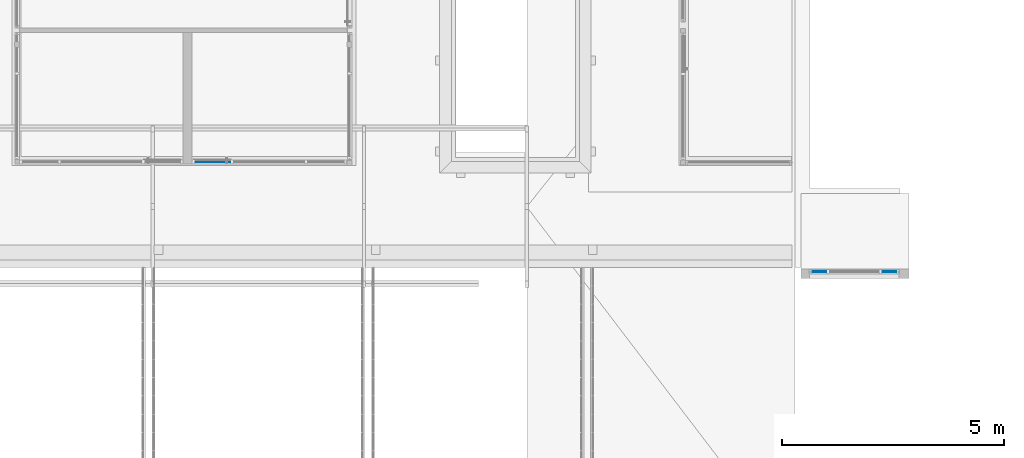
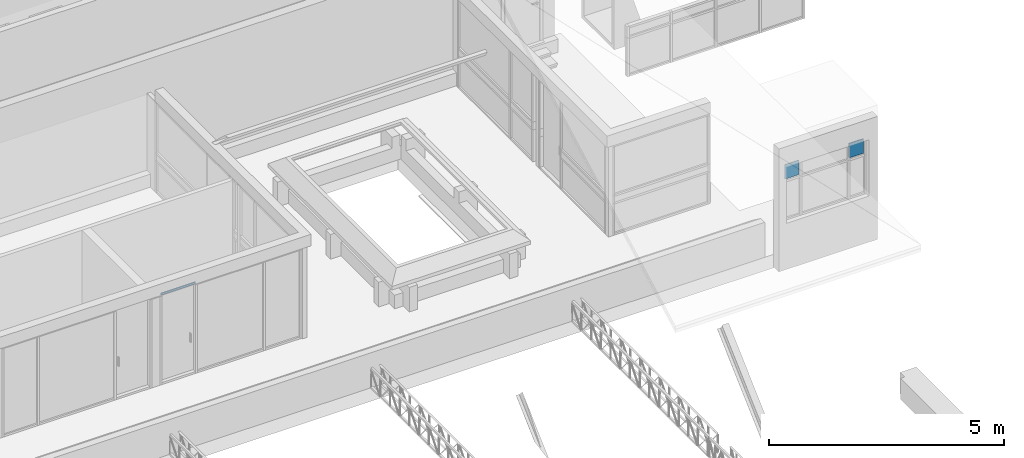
# One storey, part 109 of 153: 3 plates, 2 elements without a shape of their own.
"""IFC4 building model written with IfcOpenShell, lengths in metres."""

from ifc_helpers import new_model, entity, si_unit, converted_unit, derived_unit, direction, frame, origin, place, context, subcontext, project, spatial, indexed_curve, outline, extrude, source, transform, mapped, material, type_object, type_shapes, element, aggregate, save


model = new_model("IFC4")

# Units and contexts
model_context = context("Model", 3, precision=1e-05, world=origin(), true_north=direction((6.123031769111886e-17, 1.0)))
body_context = subcontext(model_context, "Body", "Model", "MODEL_VIEW")
ifc_project = project(units=[si_unit("LENGTHUNIT", "METRE"), si_unit("AREAUNIT", "SQUARE_METRE"), si_unit("VOLUMEUNIT", "CUBIC_METRE"), converted_unit("PLANEANGLEUNIT", "DEGREE", entity("IfcRatioMeasure", 0.017453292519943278), si_unit("PLANEANGLEUNIT", "RADIAN"), dimensions=[0, 0, 0, 0, 0, 0, 0]), si_unit("MASSUNIT", "GRAM", prefix="KILO"), derived_unit("MASSDENSITYUNIT", [(si_unit("MASSUNIT", "GRAM", prefix="KILO"), 1), (si_unit("LENGTHUNIT", "METRE"), -3)]), derived_unit("MOMENTOFINERTIAUNIT", [(si_unit("LENGTHUNIT", "METRE"), 4)]), si_unit("TIMEUNIT", "SECOND"), si_unit("FREQUENCYUNIT", "HERTZ"), si_unit("THERMODYNAMICTEMPERATUREUNIT", "DEGREE_CELSIUS"), derived_unit("THERMALTRANSMITTANCEUNIT", [(si_unit("MASSUNIT", "GRAM", prefix="KILO"), 1), (si_unit("THERMODYNAMICTEMPERATUREUNIT", "KELVIN"), -1), (si_unit("TIMEUNIT", "SECOND"), -3)]), derived_unit("VOLUMETRICFLOWRATEUNIT", [(si_unit("LENGTHUNIT", "METRE"), 3), (si_unit("TIMEUNIT", "SECOND"), -1)]), derived_unit("MASSFLOWRATEUNIT", [(si_unit("MASSUNIT", "GRAM", prefix="KILO"), 1), (si_unit("TIMEUNIT", "SECOND"), -1)]), derived_unit("ROTATIONALFREQUENCYUNIT", [(si_unit("TIMEUNIT", "SECOND"), -1)]), si_unit("ELECTRICCURRENTUNIT", "AMPERE"), si_unit("ELECTRICVOLTAGEUNIT", "VOLT"), si_unit("POWERUNIT", "WATT"), si_unit("FORCEUNIT", "NEWTON", prefix="KILO"), si_unit("ILLUMINANCEUNIT", "LUX"), si_unit("LUMINOUSFLUXUNIT", "LUMEN"), si_unit("LUMINOUSINTENSITYUNIT", "CANDELA"), derived_unit("USERDEFINED", [(si_unit("MASSUNIT", "GRAM", prefix="KILO"), -1), (si_unit("LENGTHUNIT", "METRE"), -2), (si_unit("TIMEUNIT", "SECOND"), 3), (si_unit("LUMINOUSFLUXUNIT", "LUMEN"), 1)]), derived_unit("SOUNDPOWERUNIT", [(si_unit("MASSUNIT", "GRAM", prefix="KILO"), 1), (si_unit("LENGTHUNIT", "METRE"), 2), (si_unit("TIMEUNIT", "SECOND"), -3)]), derived_unit("SOUNDPRESSUREUNIT", [(si_unit("MASSUNIT", "GRAM", prefix="KILO"), 1), (si_unit("LENGTHUNIT", "METRE"), -1), (si_unit("TIMEUNIT", "SECOND"), -2)]), derived_unit("LINEARVELOCITYUNIT", [(si_unit("LENGTHUNIT", "METRE"), 1), (si_unit("TIMEUNIT", "SECOND"), -1)]), si_unit("PRESSUREUNIT", "PASCAL"), derived_unit("USERDEFINED", [(si_unit("LENGTHUNIT", "METRE"), -2), (si_unit("MASSUNIT", "GRAM", prefix="KILO"), 1), (si_unit("TIMEUNIT", "SECOND"), -2)]), derived_unit("LINEARFORCEUNIT", [(si_unit("MASSUNIT", "GRAM", prefix="KILO"), 1), (si_unit("LENGTHUNIT", "METRE"), 1), (si_unit("TIMEUNIT", "SECOND"), -2), (si_unit("LENGTHUNIT", "METRE"), -1)]), derived_unit("PLANARFORCEUNIT", [(si_unit("MASSUNIT", "GRAM", prefix="KILO"), 1), (si_unit("LENGTHUNIT", "METRE"), 1), (si_unit("TIMEUNIT", "SECOND"), -2), (si_unit("LENGTHUNIT", "METRE"), -2)])], contexts=[model_context])

# Site, building, storey
site_placement = place(None, origin())
site = spatial("IfcSite", under=ifc_project, at=site_placement, Name="Superficie", CompositionType="ELEMENT")
building_placement = place(site_placement, origin())
building = spatial("IfcBuilding", under=site, at=building_placement, CompositionType="ELEMENT")
storey_placement = place(building_placement, frame((0.0, 0.0, 3.5999999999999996)))
storey = spatial("IfcBuildingStorey", under=building, at=storey_placement, Name="Nivel 1", CompositionType="ELEMENT", Elevation=3.5999999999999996)

# Curtain wall, plates
curtain_wall_type = type_object("IfcCurtainWallType", Name="Muro cortina:Muro cortina - simple", PredefinedType="NOTDEFINED")
curtain_wall_1_placement = place(storey_placement, frame((0.0, 0.0, -3.5999999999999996)))
curtain_wall_1 = element("IfcCurtainWall", 1, at=curtain_wall_1_placement, inside=storey, type_object=curtain_wall_type, Name="Muro cortina:Muro cortina - simple", ObjectType="Muro cortina:Muro cortina - simple", PredefinedType="NOTDEFINED")
ifc_material = material(Name="Cristal", Category="Vidrio")
plate_type_1 = type_object("IfcPlateType", Name="Panel de sistema:Acristalado", PredefinedType="CURTAIN_PANEL", material=ifc_material)
shared_shape_1 = source(origin(), body_context, "Body", "SweptSolid", [
    extrude(outline(indexed_curve([(-0.01, -0.17500000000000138), (0.01, -0.17500000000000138), (0.01, 0.17500000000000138), (-0.01, 0.17500000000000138), (-0.01, -0.17500000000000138)], self_intersect=False)), frame((0.0, 0.0, 0.0), z_axis=(0.0, 0.0, 1.0), x_axis=(0.0, 1.0, 0.0)), (0.0, 0.0, 1.0), 0.3750000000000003),
])
type_shapes(plate_type_1, [shared_shape_1])
plate_1_placement = place(curtain_wall_1_placement, frame((22.78100195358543, -3.424170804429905, 5.541385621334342), z_axis=(0.0, 0.0, 1.0), x_axis=(-1.0, 0.0, 0.0)))
plate_1 = element("IfcPlate", 2, at=plate_1_placement, type_object=plate_type_1, material=ifc_material, Name="Panel de sistema:Acristalado", ObjectType="Panel de sistema:Acristalado", PredefinedType="CURTAIN_PANEL", context=body_context, shape_type="MappedRepresentation", body=[
    mapped(shared_shape_1, transform((0.0, 0.0, 0.0), scale=1.0)),
])
plate_2_placement = place(curtain_wall_1_placement, frame((21.196001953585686, -3.4241708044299, 5.541385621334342), z_axis=(0.0, 0.0, 1.0), x_axis=(-1.0, 0.0, 0.0)))
plate_2 = element("IfcPlate", 3, at=plate_2_placement, type_object=plate_type_1, material=ifc_material, Name="Panel de sistema:Acristalado", ObjectType="Panel de sistema:Acristalado", PredefinedType="CURTAIN_PANEL", context=body_context, shape_type="MappedRepresentation", body=[
    mapped(shared_shape_1, transform((0.0, 0.0, 0.0), scale=1.0)),
])
aggregate(curtain_wall_1, [plate_1, plate_2])

# Curtain wall, plate
curtain_wall_2_placement = place(storey_placement, frame((0.0, 0.0, -3.5999999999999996)))
curtain_wall_2 = element("IfcCurtainWall", 4, at=curtain_wall_2_placement, inside=storey, type_object=curtain_wall_type, Name="Muro cortina:Muro cortina - simple", ObjectType="Muro cortina:Muro cortina - simple", PredefinedType="NOTDEFINED")
plate_type_2 = type_object("IfcPlateType", Name="Panel de sistema:Acristalado", PredefinedType="CURTAIN_PANEL", material=ifc_material)
shared_shape_2 = source(origin(), body_context, "Body", "SweptSolid", [
    extrude(outline(indexed_curve([(-0.01, -0.42499999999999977), (0.01, -0.42499999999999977), (0.01, 0.42499999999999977), (-0.01, 0.42499999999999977), (-0.01, -0.42499999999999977)], self_intersect=False)), frame((0.0, 0.0, 0.0), z_axis=(0.0, 0.0, 1.0), x_axis=(0.0, 1.0, 0.0)), (0.0, 0.0, 1.0), 0.04999999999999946),
])
type_shapes(plate_type_2, [shared_shape_2])
plate_3_placement = place(curtain_wall_2_placement, frame((7.516799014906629, -0.9517564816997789, 5.9), z_axis=(0.0, 0.0, 1.0), x_axis=(-1.0, 0.0, 0.0)))
plate_3 = element("IfcPlate", 5, at=plate_3_placement, type_object=plate_type_2, material=ifc_material, Name="Panel de sistema:Acristalado", ObjectType="Panel de sistema:Acristalado", PredefinedType="CURTAIN_PANEL", context=body_context, shape_type="MappedRepresentation", body=[
    mapped(shared_shape_2, transform((0.0, 0.0, 0.0), scale=1.0)),
])
aggregate(curtain_wall_2, [plate_3])

save(model, "model.ifc")
